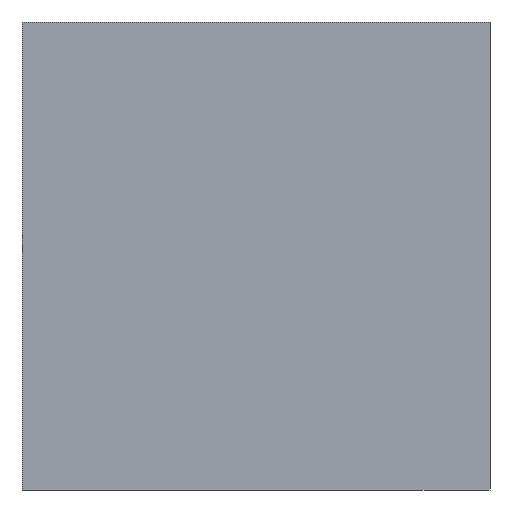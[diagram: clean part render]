
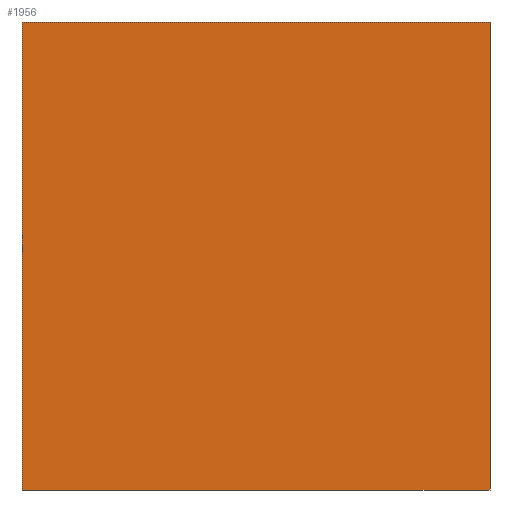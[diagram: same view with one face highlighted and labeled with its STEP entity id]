
A CAD part, front view. The second image highlights one B-rep face of the part: STEP entity #1956.
In plain terms, the highlighted planar face has unit normal (0, -1, 0).
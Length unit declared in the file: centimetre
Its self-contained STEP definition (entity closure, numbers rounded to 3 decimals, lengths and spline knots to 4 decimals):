
#90 = VECTOR ( 'NONE', #1450, 100. ) ;
#93 = LINE ( 'NONE', #1867, #546 ) ;
#191 = CARTESIAN_POINT ( 'NONE',  ( 0., 0., 1000. ) ) ;
#275 = PLANE ( 'NONE',  #733 ) ;
#276 = CARTESIAN_POINT ( 'NONE',  ( 1000., 0., 1000. ) ) ;
#313 = ORIENTED_EDGE ( 'NONE', *, *, #1949, .T. ) ;
#327 = LINE ( 'NONE', #191, #455 ) ;
#340 = CARTESIAN_POINT ( 'NONE',  ( 0., 0., 1000. ) ) ;
#447 = LINE ( 'NONE', #276, #1858 ) ;
#455 = VECTOR ( 'NONE', #2130, 100. ) ;
#457 = FACE_OUTER_BOUND ( 'NONE', #1240, .T. ) ;
#546 = VECTOR ( 'NONE', #794, 100. ) ;
#586 = ORIENTED_EDGE ( 'NONE', *, *, #1157, .T. ) ;
#733 = AXIS2_PLACEMENT_3D ( 'NONE', #980, #1170, #1701 ) ;
#751 = CARTESIAN_POINT ( 'NONE',  ( 0., 0., 0. ) ) ;
#784 = ORIENTED_EDGE ( 'NONE', *, *, #2287, .F. ) ;
#794 = DIRECTION ( 'NONE',  ( 0., 0., -1. ) ) ;
#808 = DIRECTION ( 'NONE',  ( 0., 0., -1. ) ) ;
#980 = CARTESIAN_POINT ( 'NONE',  ( 0., 0., 1000. ) ) ;
#1027 = EDGE_CURVE ( 'NONE', #1257, #1082, #327, .T. ) ;
#1041 = VERTEX_POINT ( 'NONE', #1614 ) ;
#1082 = VERTEX_POINT ( 'NONE', #1101 ) ;
#1101 = CARTESIAN_POINT ( 'NONE',  ( 1000., 0., 1000. ) ) ;
#1157 = EDGE_CURVE ( 'NONE', #1041, #1590, #2150, .T. ) ;
#1170 = DIRECTION ( 'NONE',  ( 0., 1., 0. ) ) ;
#1240 = EDGE_LOOP ( 'NONE', ( #586, #784, #1736, #313 ) ) ;
#1257 = VERTEX_POINT ( 'NONE', #340 ) ;
#1332 = CARTESIAN_POINT ( 'NONE',  ( 1000., 0., 0. ) ) ;
#1450 = DIRECTION ( 'NONE',  ( 1., 0., 0. ) ) ;
#1590 = VERTEX_POINT ( 'NONE', #1332 ) ;
#1614 = CARTESIAN_POINT ( 'NONE',  ( 0., 0., 0. ) ) ;
#1701 = DIRECTION ( 'NONE',  ( 0., 0., 1. ) ) ;
#1736 = ORIENTED_EDGE ( 'NONE', *, *, #1027, .F. ) ;
#1858 = VECTOR ( 'NONE', #808, 100. ) ;
#1867 = CARTESIAN_POINT ( 'NONE',  ( 0., 0., 1000. ) ) ;
#1949 = EDGE_CURVE ( 'NONE', #1257, #1041, #93, .T. ) ;
#1956 = ADVANCED_FACE ( 'NONE', ( #457 ), #275, .F. ) ;
#2130 = DIRECTION ( 'NONE',  ( 1., 0., 0. ) ) ;
#2150 = LINE ( 'NONE', #751, #90 ) ;
#2287 = EDGE_CURVE ( 'NONE', #1082, #1590, #447, .T. ) ;
